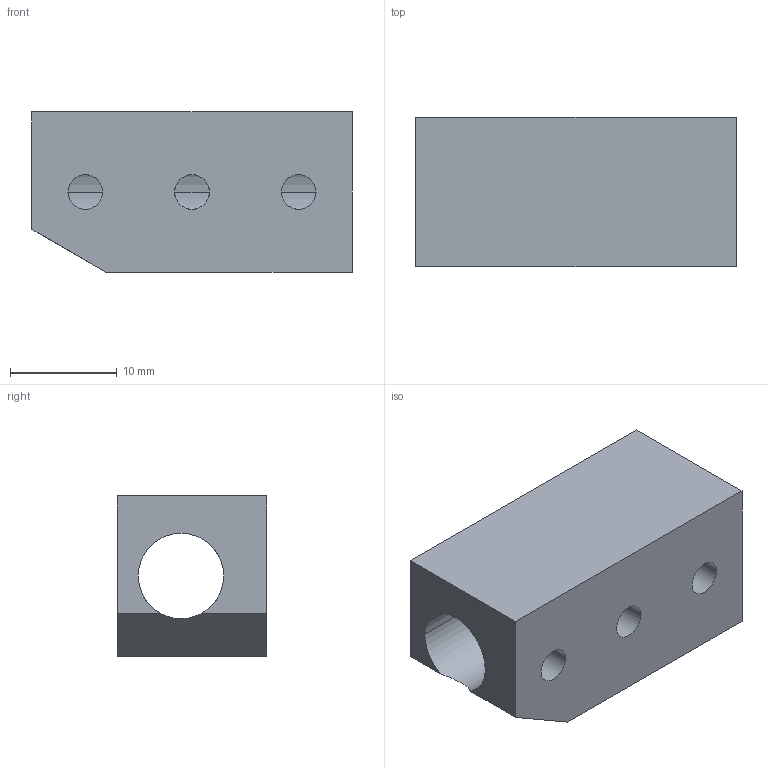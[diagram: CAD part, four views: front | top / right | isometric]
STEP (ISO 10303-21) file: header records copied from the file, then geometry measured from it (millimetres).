
FILE_DESCRIPTION(('CATIA V5 STEP Exchange','CAx-IF Rec.Pracs.--- Model Styling and Organization---1.4--- 2014-01-23','CAx-IF Rec.Pracs.---3D Tessellated Data Validation Properties---0.5---2014-09-14'),'2;1');
FILE_NAME('D:\GrabCAD\I+D\SERIE_LEXA\EKOT-1360-170921A-LEXA_WAIST_SUPPORT\FAB\FAB_C\PDF\MAQUINADO\1360.000.002.000.BASE_SIN_FIN.stp','2024-10-31T23:08:03+00:00',('none'),('none'),'CATIA Version 5-6 Release 2018 SP6','CATIA V5 STEP AP242','none');
FILE_SCHEMA(('AP242_MANAGED_MODEL_BASED_3D_ENGINEERING_MIM_LF {1 0 10303 442 1 1 4}'));
Length unit declared in the file: millimetre
Products named in the file (1): 1360.000.002.000.BASE_SIN_FIN
Bounding box: 30 x 14 x 15 mm (x, y, z)
Volume: 4496.6 mm3; surface area: 2819.4 mm2
Topology: 1 solids, 1 shells, 15 faces, 45 edges, 28 vertices
Faces by surface type: cylinder 8, plane 7
Entity records: 611 total; most frequent: CARTESIAN_POINT 180, ORIENTED_EDGE 90, DIRECTION 60, EDGE_CURVE 45, VERTEX_POINT 28, VECTOR 27, LINE 27, AXIS2_PLACEMENT_3D 23
